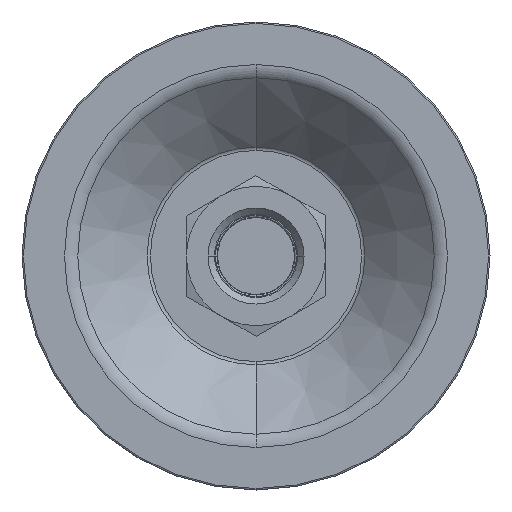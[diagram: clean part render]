
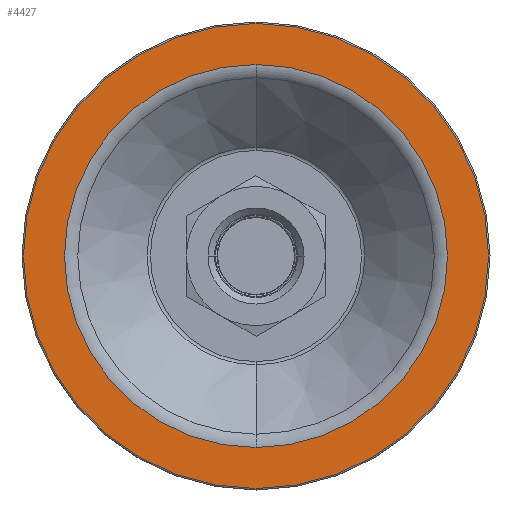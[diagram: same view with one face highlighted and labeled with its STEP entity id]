
A CAD part, front view. The second image highlights one B-rep face of the part: STEP entity #4427.
In plain terms, the highlighted planar face has unit normal (0, -1, 0).
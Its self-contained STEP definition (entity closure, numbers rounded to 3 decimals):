
#53 = DIRECTION ( 'NONE',  ( 0., 1., 0. ) ) ;
#78 = EDGE_LOOP ( 'NONE', ( #3513, #7958 ) ) ;
#178 = FACE_OUTER_BOUND ( 'NONE', #78, .T. ) ;
#440 = DIRECTION ( 'NONE',  ( 0., 0., 1. ) ) ;
#943 = AXIS2_PLACEMENT_3D ( 'NONE', #7082, #3739, #440 ) ;
#1081 = CIRCLE ( 'NONE', #4371, 39.901 ) ;
#1118 = VERTEX_POINT ( 'NONE', #3875 ) ;
#1263 = AXIS2_PLACEMENT_3D ( 'NONE', #5788, #5127, #2519 ) ;
#1335 = CARTESIAN_POINT ( 'NONE',  ( 0., 0., 0. ) ) ;
#1607 = VERTEX_POINT ( 'NONE', #8180 ) ;
#1705 = DIRECTION ( 'NONE',  ( 0., -1., 0. ) ) ;
#2519 = DIRECTION ( 'NONE',  ( 0., 0., 1. ) ) ;
#2651 = EDGE_CURVE ( 'NONE', #3966, #1118, #8123, .T. ) ;
#3290 = AXIS2_PLACEMENT_3D ( 'NONE', #5695, #1705, #6903 ) ;
#3381 = EDGE_CURVE ( 'NONE', #5574, #1607, #3922, .T. ) ;
#3513 = ORIENTED_EDGE ( 'NONE', *, *, #3381, .T. ) ;
#3739 = DIRECTION ( 'NONE',  ( 0., 1., 0. ) ) ;
#3851 = CARTESIAN_POINT ( 'NONE',  ( 0., 0., 0. ) ) ;
#3875 = CARTESIAN_POINT ( 'NONE',  ( 0., 0., 39.901 ) ) ;
#3922 = CIRCLE ( 'NONE', #3290, 48.45 ) ;
#3930 = DIRECTION ( 'NONE',  ( 0., 0., 1. ) ) ;
#3966 = VERTEX_POINT ( 'NONE', #6253 ) ;
#3975 = DIRECTION ( 'NONE',  ( 0., 0., 1. ) ) ;
#4105 = CARTESIAN_POINT ( 'NONE',  ( 0., 0., 48.45 ) ) ;
#4371 = AXIS2_PLACEMENT_3D ( 'NONE', #1335, #53, #3975 ) ;
#4397 = PLANE ( 'NONE',  #943 ) ;
#4427 = ADVANCED_FACE ( 'NONE', ( #178, #5345 ), #4397, .F. ) ;
#4768 = EDGE_CURVE ( 'NONE', #1607, #5574, #5869, .T. ) ;
#5058 = EDGE_CURVE ( 'NONE', #1118, #3966, #1081, .T. ) ;
#5127 = DIRECTION ( 'NONE',  ( 0., -1., 0. ) ) ;
#5345 = FACE_BOUND ( 'NONE', #6136, .T. ) ;
#5574 = VERTEX_POINT ( 'NONE', #4105 ) ;
#5695 = CARTESIAN_POINT ( 'NONE',  ( 0., 0., 0. ) ) ;
#5788 = CARTESIAN_POINT ( 'NONE',  ( 0., 0., 0. ) ) ;
#5869 = CIRCLE ( 'NONE', #1263, 48.45 ) ;
#6136 = EDGE_LOOP ( 'NONE', ( #8186, #6395 ) ) ;
#6253 = CARTESIAN_POINT ( 'NONE',  ( 0., 0., -39.901 ) ) ;
#6395 = ORIENTED_EDGE ( 'NONE', *, *, #2651, .T. ) ;
#6525 = DIRECTION ( 'NONE',  ( 0., 1., 0. ) ) ;
#6903 = DIRECTION ( 'NONE',  ( 0., 0., 1. ) ) ;
#7082 = CARTESIAN_POINT ( 'NONE',  ( 48.75, 0., 0. ) ) ;
#7958 = ORIENTED_EDGE ( 'NONE', *, *, #4768, .T. ) ;
#8069 = AXIS2_PLACEMENT_3D ( 'NONE', #3851, #6525, #3930 ) ;
#8123 = CIRCLE ( 'NONE', #8069, 39.901 ) ;
#8180 = CARTESIAN_POINT ( 'NONE',  ( 0., 0., -48.45 ) ) ;
#8186 = ORIENTED_EDGE ( 'NONE', *, *, #5058, .T. ) ;
